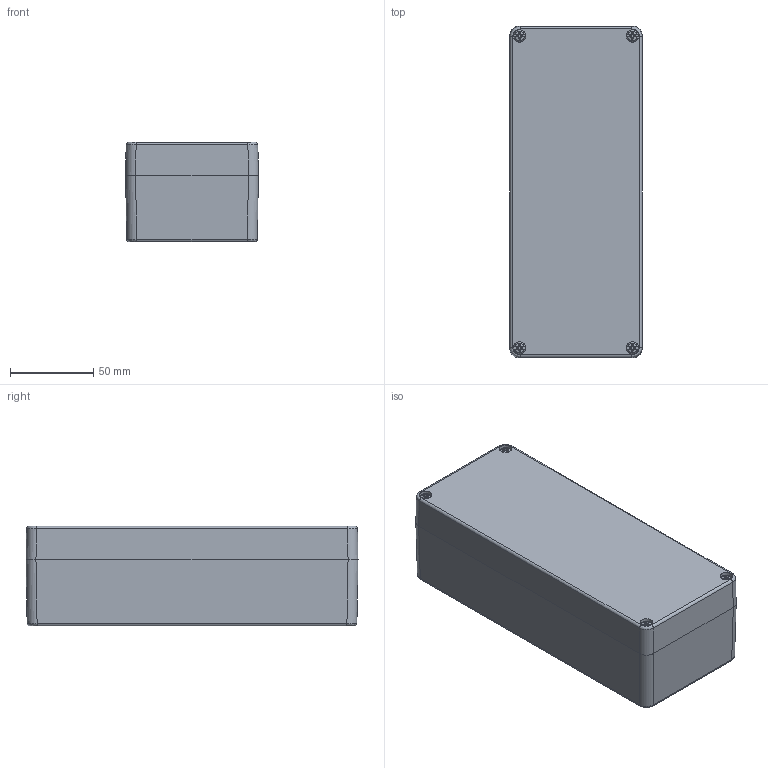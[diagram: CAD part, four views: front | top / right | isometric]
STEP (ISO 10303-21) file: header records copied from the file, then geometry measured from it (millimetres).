
FILE_DESCRIPTION(/* description */ (''),/* implementation_level */ '2;1');
FILE_NAME(/* name */ 'E:\Eng\Customer Service\Drawings\1590Z\3D\1590Z137\1590Z137.stp',/* time_stamp */ '2022-08-18T07:29:56-04:00',/* author */ ('mbeerman'),/* organization */ (''),/* preprocessor_version */ 'ST-DEVELOPER v19',/* originating_system */ 'Autodesk Inventor 2023',/* authorisation */ '');
FILE_SCHEMA (('AUTOMOTIVE_DESIGN { 1 0 10303 214 3 1 1 }'));
Length unit declared in the file: millimetre
Products named in the file (5): 1590Z137; 1590Z137 Box; 1590Z137 Lid; 1590Z137 GASKET; SC583 (screw M4-0.7X 25mm PN)
Assembly tree (7 placements, depth 2):
  1590Z137
    1590Z137 Box
    1590Z137 Lid
    1590Z137 GASKET
    SC583 (screw M4-0.7X 25mm PN)  x4
Bounding box: 80 x 200 x 60 mm (x, y, z)
Volume: 269557.3 mm3; surface area: 136844.4 mm2
Topology: 7 solids, 7 shells, 1084 faces, 2776 edges, 1783 vertices
Faces by surface type: plane 560, bspline 210, cone 124, cylinder 109, torus 71, sphere 10
Full cylindrical faces by diameter (mm): 3.242 x11, 3.48 x4, 3.7 x4, 3.85 x4, 4.125 x3, 4.525 x3, 6.9 x4
Entity records: 31770 total; most frequent: CARTESIAN_POINT 9335, ORIENTED_EDGE 4862, DIRECTION 4097, EDGE_CURVE 2431, VERTEX_POINT 1567, LINE 1481, VECTOR 1481, AXIS2_PLACEMENT_3D 1308
